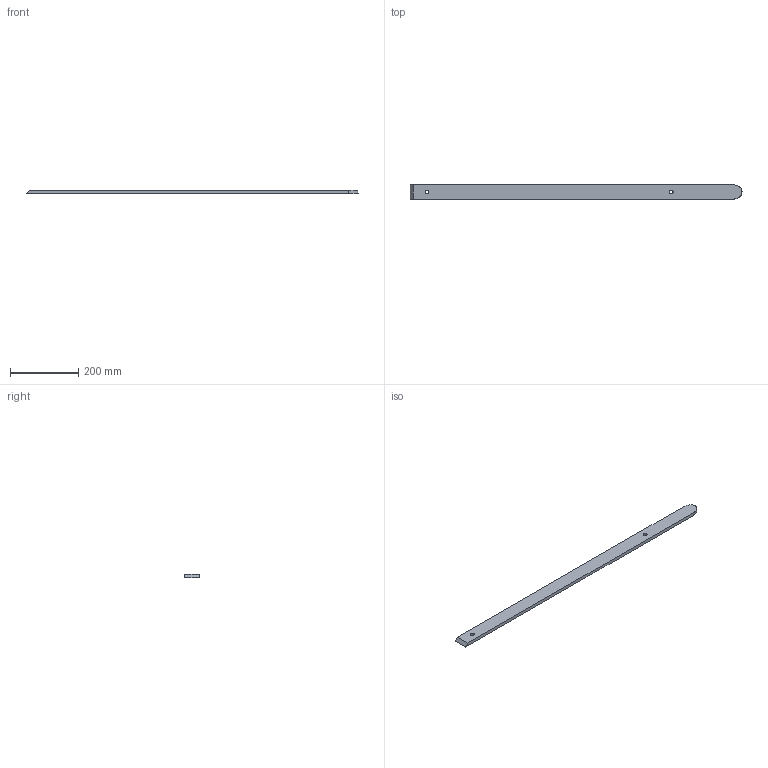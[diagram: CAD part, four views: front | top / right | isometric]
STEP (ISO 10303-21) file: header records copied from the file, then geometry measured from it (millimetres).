
FILE_DESCRIPTION(/* description */ (''),/* implementation_level */ '2;1');
FILE_NAME(/* name */ 'Pos120-Plaatwerk D= 10-S235JRG2-3st',/* time_stamp */ '2024-08-06T13:37:44+02:00',/* author */ (''),/* organization */ (''),/* preprocessor_version */ 'ST-DEVELOPER v16.5',/* originating_system */ 'HiCAD 2024 2901.2 Build 361',/* authorisation */ '');
FILE_SCHEMA (('AUTOMOTIVE_DESIGN { 1 0 10303 214 1 1 1 1 }'));
Length unit declared in the file: millimetre
Products named in the file (1): Pos120-Plaatwerk D= 10-S235JRG2-3st
Bounding box: 973.05 x 42.4 x 10 mm (x, y, z)
Volume: 405616 mm3; surface area: 101969.8 mm2
Topology: 1 solids, 1 shells, 10 faces, 24 edges, 19 vertices
Faces by surface type: plane 5, cylinder 2, cone 2, bspline 1
Full cylindrical faces by diameter (mm): 11 x2
Entity records: 969 total; most frequent: CARTESIAN_POINT 564, DIRECTION 38, PRESENTATION_STYLE_ASSIGNMENT 37, COLOUR_RGB 37, DRAUGHTING_PRE_DEFINED_CURVE_FONT 36, CURVE_STYLE 36, OVER_RIDING_STYLED_ITEM 36, ORIENTED_EDGE 36
